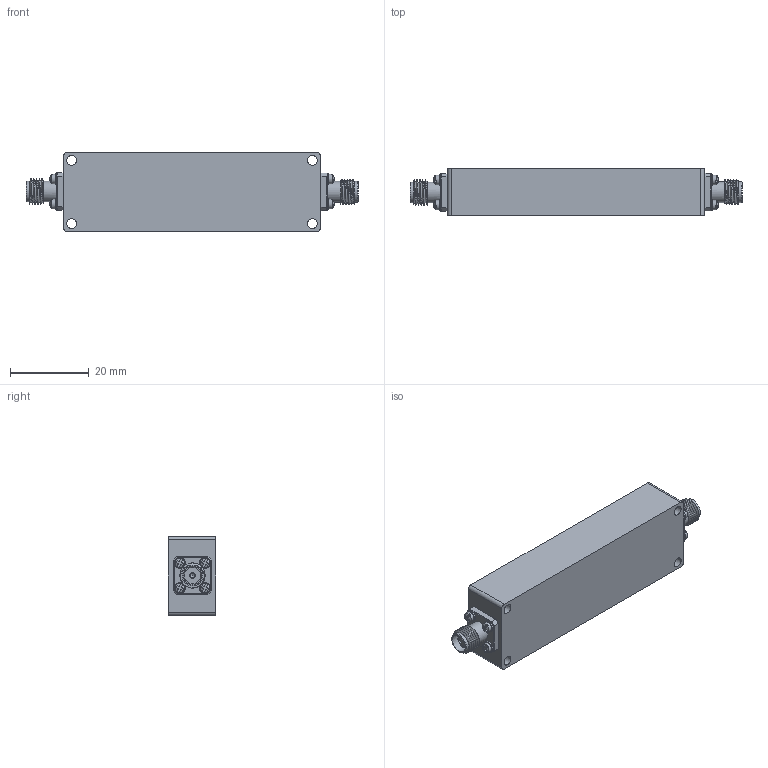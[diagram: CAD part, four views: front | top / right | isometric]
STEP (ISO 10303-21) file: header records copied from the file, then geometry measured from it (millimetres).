
FILE_DESCRIPTION (( 'STEP AP214' ), '1' );
FILE_NAME ('BPF-2697D5M2902D5M-SFF-2.STEP', '2026-09-17T14:29:16', ( '' ), ( '' ), 'SwSTEP 2.0', 'SolidWorks 2025', '' );
FILE_SCHEMA (( 'AUTOMOTIVE_DESIGN' ));
Length unit declared in the file: inch
Products named in the file (1): BPF-2697D5M2902D5M-SFF-2
Bounding box: 84.07 x 12.05 x 20.07 mm (x, y, z)
Volume: 16201.6 mm3; surface area: 8878.5 mm2
Topology: 20 solids, 20 shells, 528 faces, 2016 edges, 1688 vertices
Faces by surface type: plane 334, cylinder 116, torus 46, sphere 16, cone 12, bspline 4
Full cylindrical faces by diameter (mm): 0.381 x2, 0.457 x2, 0.711 x2, 1.016 x2, 1.27 x2, 1.524 x8, 1.702 x8, 2.438 x8, 2.464 x4, 3.302 x2, 4.191 x4, 4.597 x2, 5.283 x4
Entity records: 32119 total; most frequent: CARTESIAN_POINT 10503, ORIENTED_EDGE 3788, DIRECTION 2998, EDGE_CURVE 1894, VERTEX_POINT 1674, LINE 1062, VECTOR 1062, AXIS2_PLACEMENT_3D 968
